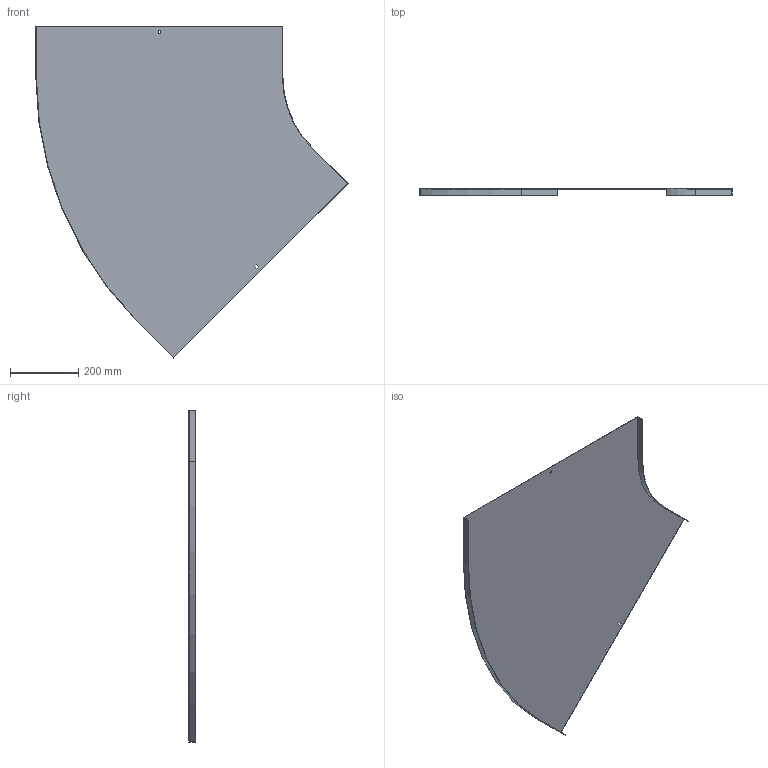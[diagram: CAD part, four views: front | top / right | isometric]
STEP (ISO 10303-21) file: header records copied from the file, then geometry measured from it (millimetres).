
FILE_DESCRIPTION (( 'STEP AP214' ), '1' );
FILE_NAME ('11N3P700.step', '2025-02-21T13:35:11', ( '' ), ( '' ), 'SwSTEP 2.0', 'SolidWorks 2023', '' );
FILE_SCHEMA (( 'AUTOMOTIVE_DESIGN' ));
Length unit declared in the file: millimetre
Products named in the file (1): 11N3P700
Bounding box: 913.57 x 20 x 971.3 mm (x, y, z)
Volume: 923804.5 mm3; surface area: 1236543.9 mm2
Topology: 1 solids, 1 shells, 26 faces, 72 edges, 48 vertices
Faces by surface type: plane 22, cylinder 4
Entity records: 855 total; most frequent: CARTESIAN_POINT 147, ORIENTED_EDGE 144, DIRECTION 134, EDGE_CURVE 72, VECTOR 64, LINE 64, VERTEX_POINT 48, AXIS2_PLACEMENT_3D 35
